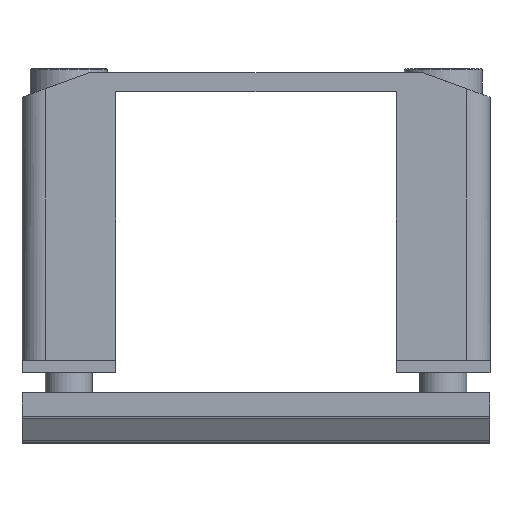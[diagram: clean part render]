
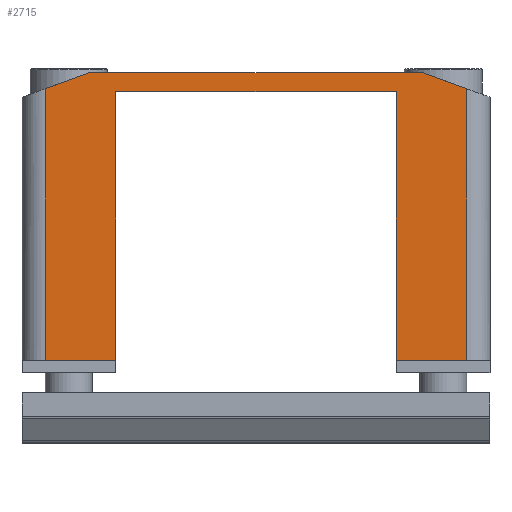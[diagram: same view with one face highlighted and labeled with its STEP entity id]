
A CAD part, top view. The second image highlights one B-rep face of the part: STEP entity #2715.
In plain terms, the highlighted planar face has unit normal (0, 0, 1).
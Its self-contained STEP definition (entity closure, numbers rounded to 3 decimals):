
#150 = CARTESIAN_POINT ( 'NONE',  ( -34.814, 16.736, 6. ) ) ;
#906 = DIRECTION ( 'NONE',  ( 0.94, 0.342, 0. ) ) ;
#909 = VERTEX_POINT ( 'NONE', #6752 ) ;
#975 = DIRECTION ( 'NONE',  ( 1., 0., 0. ) ) ;
#1076 = EDGE_CURVE ( 'NONE', #6199, #7026, #1899, .T. ) ;
#1083 = DIRECTION ( 'NONE',  ( 0., -1., 0. ) ) ;
#1101 = DIRECTION ( 'NONE',  ( 0., 1., 0. ) ) ;
#1297 = ORIENTED_EDGE ( 'NONE', *, *, #8773, .T. ) ;
#1320 = EDGE_CURVE ( 'NONE', #3743, #6042, #1418, .T. ) ;
#1372 = VECTOR ( 'NONE', #975, 1000. ) ;
#1377 = CARTESIAN_POINT ( 'NONE',  ( -72.314, 16.736, 6. ) ) ;
#1418 = LINE ( 'NONE', #5373, #8634 ) ;
#1517 = VECTOR ( 'NONE', #6996, 1000. ) ;
#1612 = CARTESIAN_POINT ( 'NONE',  ( -79.814, 45.761, 6. ) ) ;
#1653 = CARTESIAN_POINT ( 'NONE',  ( -42.314, 45.45, 6. ) ) ;
#1857 = VERTEX_POINT ( 'NONE', #6304 ) ;
#1899 = LINE ( 'NONE', #7079, #6271 ) ;
#1938 = VECTOR ( 'NONE', #3917, 1000. ) ;
#2063 = VERTEX_POINT ( 'NONE', #1377 ) ;
#2298 = LINE ( 'NONE', #4150, #1372 ) ;
#2317 = DIRECTION ( 'NONE',  ( 1., 0., 0. ) ) ;
#2598 = ORIENTED_EDGE ( 'NONE', *, *, #3916, .T. ) ;
#2715 = ADVANCED_FACE ( 'NONE', ( #3747 ), #8364, .T. ) ;
#2757 = DIRECTION ( 'NONE',  ( -1., 0., 0. ) ) ;
#3003 = VERTEX_POINT ( 'NONE', #5784 ) ;
#3120 = LINE ( 'NONE', #4821, #5614 ) ;
#3127 = DIRECTION ( 'NONE',  ( 0., 0., 1. ) ) ;
#3268 = ORIENTED_EDGE ( 'NONE', *, *, #3832, .F. ) ;
#3454 = VECTOR ( 'NONE', #4520, 1000. ) ;
#3561 = ORIENTED_EDGE ( 'NONE', *, *, #5065, .F. ) ;
#3743 = VERTEX_POINT ( 'NONE', #1612 ) ;
#3747 = FACE_OUTER_BOUND ( 'NONE', #8977, .T. ) ;
#3773 = CARTESIAN_POINT ( 'NONE',  ( -82.315, 16.736, 6. ) ) ;
#3776 = EDGE_CURVE ( 'NONE', #3743, #9073, #4952, .T. ) ;
#3783 = CARTESIAN_POINT ( 'NONE',  ( -75.174, 47.45, 6. ) ) ;
#3832 = EDGE_CURVE ( 'NONE', #5052, #2063, #5169, .T. ) ;
#3858 = CARTESIAN_POINT ( 'NONE',  ( 0., 0., 6. ) ) ;
#3916 = EDGE_CURVE ( 'NONE', #6042, #2063, #2298, .T. ) ;
#3917 = DIRECTION ( 'NONE',  ( -1., 0., 0. ) ) ;
#4064 = CARTESIAN_POINT ( 'NONE',  ( -34.814, 45.761, 6. ) ) ;
#4150 = CARTESIAN_POINT ( 'NONE',  ( -82.314, 16.736, 6. ) ) ;
#4520 = DIRECTION ( 'NONE',  ( 1., 0., 0. ) ) ;
#4544 = ORIENTED_EDGE ( 'NONE', *, *, #1320, .T. ) ;
#4799 = CARTESIAN_POINT ( 'NONE',  ( -72.314, 45.45, 6. ) ) ;
#4821 = CARTESIAN_POINT ( 'NONE',  ( -42.314, 15.45, 6. ) ) ;
#4952 = LINE ( 'NONE', #5442, #8033 ) ;
#5052 = VERTEX_POINT ( 'NONE', #4799 ) ;
#5065 = EDGE_CURVE ( 'NONE', #3003, #5052, #8556, .T. ) ;
#5097 = CARTESIAN_POINT ( 'NONE',  ( -79.814, 16.736, 6. ) ) ;
#5169 = LINE ( 'NONE', #7790, #5457 ) ;
#5366 = ORIENTED_EDGE ( 'NONE', *, *, #3776, .F. ) ;
#5373 = CARTESIAN_POINT ( 'NONE',  ( -79.814, 0., 6. ) ) ;
#5442 = CARTESIAN_POINT ( 'NONE',  ( -75.174, 47.45, 6. ) ) ;
#5457 = VECTOR ( 'NONE', #1083, 1000. ) ;
#5572 = EDGE_CURVE ( 'NONE', #909, #3003, #3120, .T. ) ;
#5614 = VECTOR ( 'NONE', #8482, 1000. ) ;
#5784 = CARTESIAN_POINT ( 'NONE',  ( -42.314, 45.45, 6. ) ) ;
#6042 = VERTEX_POINT ( 'NONE', #5097 ) ;
#6182 = DIRECTION ( 'NONE',  ( 0., -1., 0. ) ) ;
#6199 = VERTEX_POINT ( 'NONE', #150 ) ;
#6271 = VECTOR ( 'NONE', #1101, 1000. ) ;
#6304 = CARTESIAN_POINT ( 'NONE',  ( -39.454, 47.45, 6. ) ) ;
#6634 = EDGE_CURVE ( 'NONE', #909, #6199, #7442, .T. ) ;
#6752 = CARTESIAN_POINT ( 'NONE',  ( -42.314, 16.736, 6. ) ) ;
#6996 = DIRECTION ( 'NONE',  ( 0.94, -0.342, 0. ) ) ;
#7026 = VERTEX_POINT ( 'NONE', #4064 ) ;
#7079 = CARTESIAN_POINT ( 'NONE',  ( -34.814, 0., 6. ) ) ;
#7442 = LINE ( 'NONE', #3773, #3454 ) ;
#7608 = ORIENTED_EDGE ( 'NONE', *, *, #5572, .F. ) ;
#7612 = AXIS2_PLACEMENT_3D ( 'NONE', #3858, #3127, #2317 ) ;
#7696 = CARTESIAN_POINT ( 'NONE',  ( -39.454, 47.45, 6. ) ) ;
#7790 = CARTESIAN_POINT ( 'NONE',  ( -72.314, 45.45, 6. ) ) ;
#8033 = VECTOR ( 'NONE', #906, 1000. ) ;
#8364 = PLANE ( 'NONE',  #7612 ) ;
#8482 = DIRECTION ( 'NONE',  ( 0., 1., 0. ) ) ;
#8488 = LINE ( 'NONE', #9452, #8852 ) ;
#8556 = LINE ( 'NONE', #1653, #1938 ) ;
#8634 = VECTOR ( 'NONE', #6182, 1000. ) ;
#8773 = EDGE_CURVE ( 'NONE', #1857, #9073, #8488, .T. ) ;
#8847 = ORIENTED_EDGE ( 'NONE', *, *, #1076, .T. ) ;
#8852 = VECTOR ( 'NONE', #2757, 1000. ) ;
#8941 = ORIENTED_EDGE ( 'NONE', *, *, #9143, .F. ) ;
#8977 = EDGE_LOOP ( 'NONE', ( #9130, #8847, #8941, #1297, #5366, #4544, #2598, #3268, #3561, #7608 ) ) ;
#9073 = VERTEX_POINT ( 'NONE', #3783 ) ;
#9130 = ORIENTED_EDGE ( 'NONE', *, *, #6634, .T. ) ;
#9143 = EDGE_CURVE ( 'NONE', #1857, #7026, #9415, .T. ) ;
#9415 = LINE ( 'NONE', #7696, #1517 ) ;
#9452 = CARTESIAN_POINT ( 'NONE',  ( -32.314, 47.45, 6. ) ) ;
